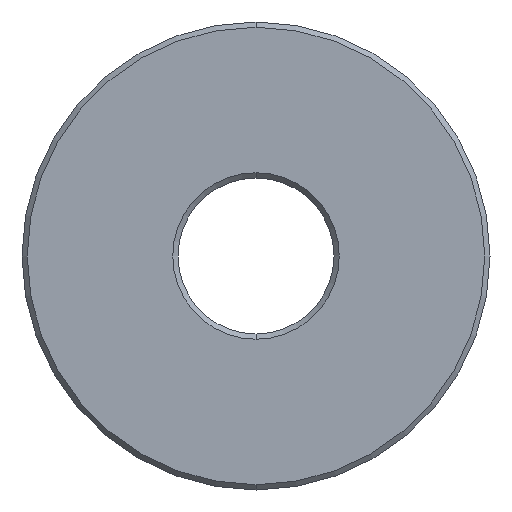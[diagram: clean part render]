
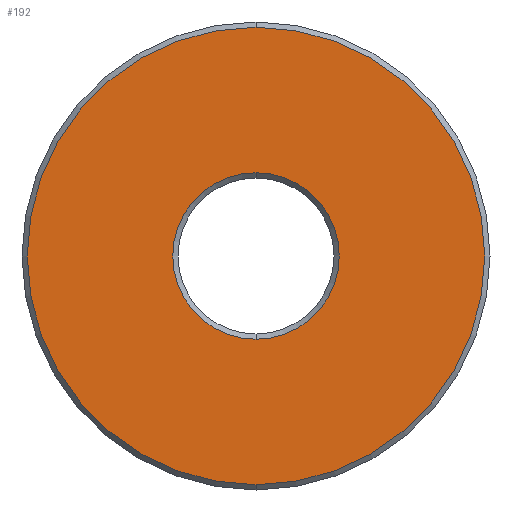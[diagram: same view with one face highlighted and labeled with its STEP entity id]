
A CAD part, front view. The second image highlights one B-rep face of the part: STEP entity #192.
In plain terms, the highlighted planar face has unit normal (0, -1, 0).
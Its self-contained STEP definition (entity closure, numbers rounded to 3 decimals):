
#6 = DIRECTION ( 'NONE',  ( 0., -1., 0. ) ) ;
#21 = DIRECTION ( 'NONE',  ( 0., 0., -1. ) ) ;
#43 = CIRCLE ( 'NONE', #114, 5.865 ) ;
#46 = EDGE_CURVE ( 'NONE', #67, #346, #242, .T. ) ;
#67 = VERTEX_POINT ( 'NONE', #624 ) ;
#95 = AXIS2_PLACEMENT_3D ( 'NONE', #266, #210, #462 ) ;
#96 = FACE_OUTER_BOUND ( 'NONE', #257, .T. ) ;
#114 = AXIS2_PLACEMENT_3D ( 'NONE', #258, #119, #21 ) ;
#119 = DIRECTION ( 'NONE',  ( 0., -1., 0. ) ) ;
#147 = FACE_BOUND ( 'NONE', #316, .T. ) ;
#152 = VERTEX_POINT ( 'NONE', #609 ) ;
#158 = ORIENTED_EDGE ( 'NONE', *, *, #275, .T. ) ;
#163 = PLANE ( 'NONE',  #622 ) ;
#167 = CARTESIAN_POINT ( 'NONE',  ( 0., 0., 0. ) ) ;
#179 = AXIS2_PLACEMENT_3D ( 'NONE', #167, #621, #366 ) ;
#192 = ADVANCED_FACE ( 'NONE', ( #96, #147 ), #163, .T. ) ;
#200 = ORIENTED_EDGE ( 'NONE', *, *, #433, .T. ) ;
#210 = DIRECTION ( 'NONE',  ( 0., -1., 0. ) ) ;
#217 = CARTESIAN_POINT ( 'NONE',  ( 0., 0., -2.135 ) ) ;
#222 = EDGE_CURVE ( 'NONE', #346, #67, #339, .T. ) ;
#242 = CIRCLE ( 'NONE', #591, 2.135 ) ;
#244 = DIRECTION ( 'NONE',  ( 0., -1., 0. ) ) ;
#257 = EDGE_LOOP ( 'NONE', ( #200, #158 ) ) ;
#258 = CARTESIAN_POINT ( 'NONE',  ( 0., 0., 0. ) ) ;
#266 = CARTESIAN_POINT ( 'NONE',  ( 0., 0., 0. ) ) ;
#275 = EDGE_CURVE ( 'NONE', #152, #396, #484, .T. ) ;
#291 = DIRECTION ( 'NONE',  ( 0., 0., -1. ) ) ;
#302 = ORIENTED_EDGE ( 'NONE', *, *, #46, .F. ) ;
#316 = EDGE_LOOP ( 'NONE', ( #302, #469 ) ) ;
#339 = CIRCLE ( 'NONE', #95, 2.135 ) ;
#346 = VERTEX_POINT ( 'NONE', #402 ) ;
#356 = DIRECTION ( 'NONE',  ( 0., 0., -1. ) ) ;
#366 = DIRECTION ( 'NONE',  ( 0., 0., -1. ) ) ;
#396 = VERTEX_POINT ( 'NONE', #554 ) ;
#402 = CARTESIAN_POINT ( 'NONE',  ( 0., 0., 2.135 ) ) ;
#433 = EDGE_CURVE ( 'NONE', #396, #152, #43, .T. ) ;
#462 = DIRECTION ( 'NONE',  ( 0., 0., -1. ) ) ;
#469 = ORIENTED_EDGE ( 'NONE', *, *, #222, .F. ) ;
#484 = CIRCLE ( 'NONE', #179, 5.865 ) ;
#533 = CARTESIAN_POINT ( 'NONE',  ( 0., 0., 0. ) ) ;
#554 = CARTESIAN_POINT ( 'NONE',  ( 0., 0., 5.865 ) ) ;
#591 = AXIS2_PLACEMENT_3D ( 'NONE', #533, #244, #291 ) ;
#609 = CARTESIAN_POINT ( 'NONE',  ( 0., 0., -5.865 ) ) ;
#621 = DIRECTION ( 'NONE',  ( 0., -1., 0. ) ) ;
#622 = AXIS2_PLACEMENT_3D ( 'NONE', #217, #6, #356 ) ;
#624 = CARTESIAN_POINT ( 'NONE',  ( 0., 0., -2.135 ) ) ;
